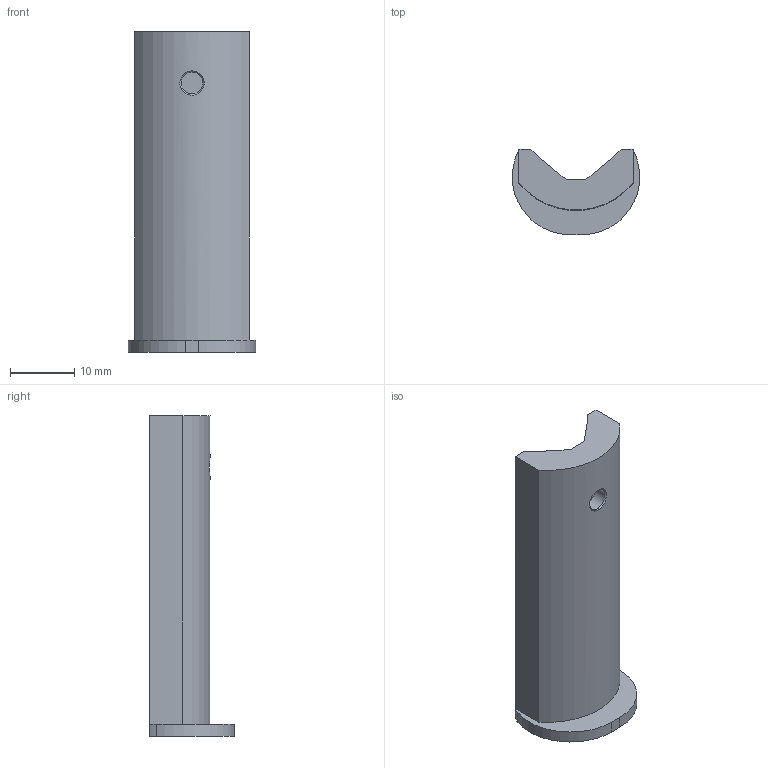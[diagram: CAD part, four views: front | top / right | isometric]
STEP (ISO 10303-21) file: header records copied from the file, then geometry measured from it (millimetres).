
FILE_DESCRIPTION(/* description */ (''),/* implementation_level */ '2;1');
FILE_NAME(/* name */ 'pp5.stp',/* time_stamp */ '2024-11-29T19:52:58+01:00',/* author */ ('R5800u'),/* organization */ (''),/* preprocessor_version */ 'ST-DEVELOPER v20',/* originating_system */ 'Autodesk Inventor 2025',/* authorisation */ '');
FILE_SCHEMA (('AUTOMOTIVE_DESIGN { 1 0 10303 214 3 1 1 }'));
Length unit declared in the file: millimetre
Products named in the file (1): pp5
Bounding box: 19.86 x 13.21 x 50 mm (x, y, z)
Volume: 5344.6 mm3; surface area: 3011.5 mm2
Topology: 1 solids, 1 shells, 22 faces, 55 edges, 36 vertices
Faces by surface type: plane 15, cylinder 6, bspline 1
Full cylindrical faces by diameter (mm): 3.4 x1
Entity records: 850 total; most frequent: CARTESIAN_POINT 276, ORIENTED_EDGE 110, DIRECTION 107, EDGE_CURVE 55, LINE 41, VECTOR 41, VERTEX_POINT 36, AXIS2_PLACEMENT_3D 33
